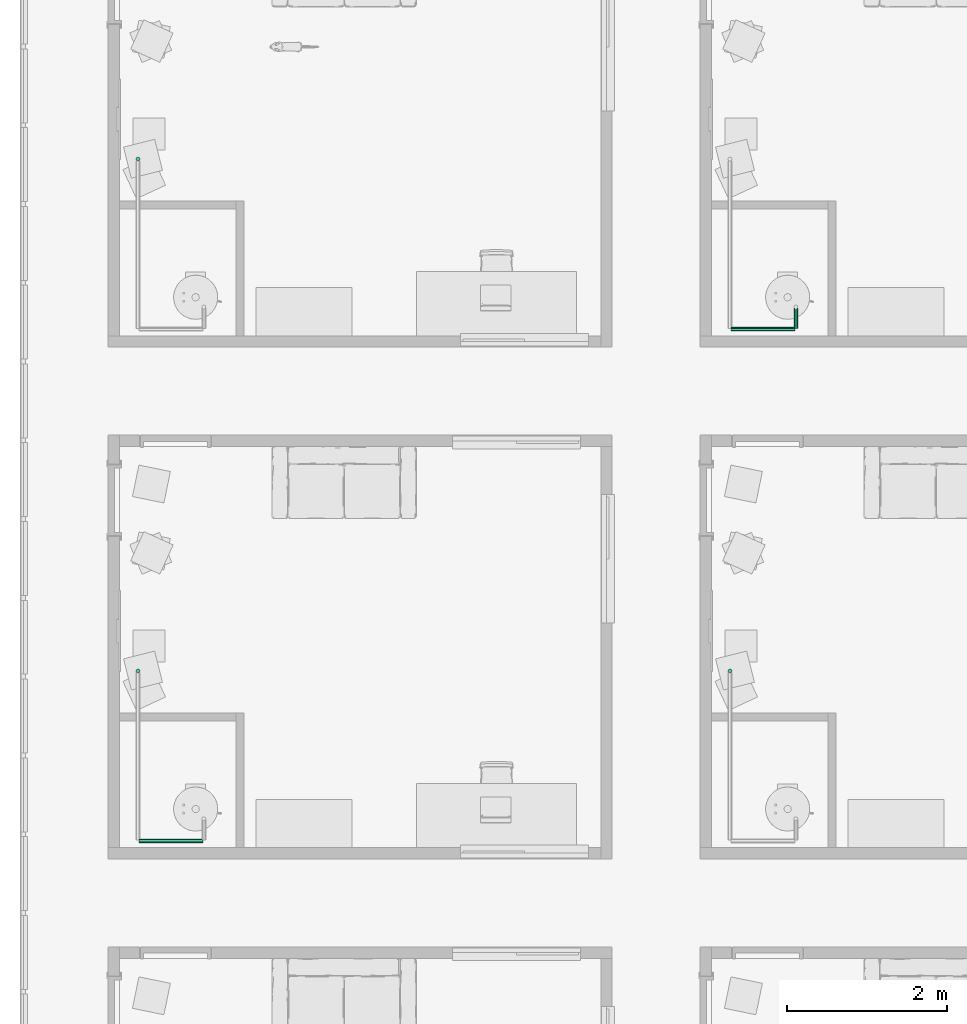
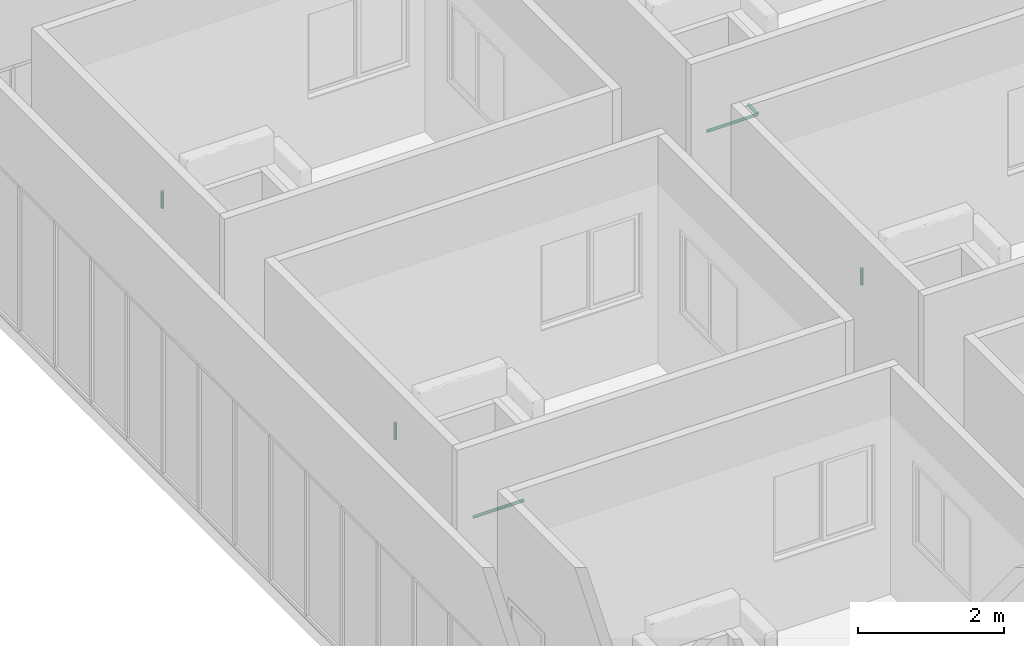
# One storey, part 46 of 71: 6 pipe segments.
"""IFC4 building model written with IfcOpenShell, lengths in centimetres."""

from ifc_helpers import new_model, entity, si_unit, converted_unit, derived_unit, direction, frame, origin, place, context, subcontext, project, spatial, arc, indexed_curve, outline, extrude, type_object, element, save


model = new_model("IFC4")

# Units and contexts
model_context = context("Model", 3, precision=0.001, world=origin(), true_north=direction((6.123233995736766e-17, 1.0)))
body_context = subcontext(model_context, "Body", "Model", "MODEL_VIEW")
ifc_project = project(units=[si_unit("LENGTHUNIT", "METRE", prefix="CENTI"), si_unit("AREAUNIT", "SQUARE_METRE"), si_unit("VOLUMEUNIT", "CUBIC_METRE"), derived_unit("THERMALTRANSMITTANCEUNIT", [(si_unit("MASSUNIT", "GRAM", prefix="KILO"), 1), (si_unit("THERMODYNAMICTEMPERATUREUNIT", "KELVIN"), -1), (si_unit("TIMEUNIT", "SECOND"), -3)]), converted_unit("PLANEANGLEUNIT", "DEGREE", entity("IfcPlaneAngleMeasure", 0.017453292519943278), si_unit("PLANEANGLEUNIT", "RADIAN"), dimensions=[0, 0, 0, 0, 0, 0, 0]), derived_unit("MASSDENSITYUNIT", [(si_unit("MASSUNIT", "GRAM", prefix="KILO"), 1), (si_unit("LENGTHUNIT", "METRE"), -3)]), derived_unit("VAPORPERMEABILITYUNIT", [(si_unit("LENGTHUNIT", "METRE"), -1), (si_unit("TIMEUNIT", "SECOND"), 1)]), derived_unit("USERDEFINED", [(si_unit("MASSUNIT", "GRAM", prefix="KILO"), 1), (si_unit("TIMEUNIT", "SECOND"), -3), (si_unit("LENGTHUNIT", "METRE"), 3), (si_unit("ELECTRICCURRENTUNIT", "AMPERE"), -2)]), derived_unit("SPECIFICHEATCAPACITYUNIT", [(si_unit("THERMODYNAMICTEMPERATUREUNIT", "KELVIN"), -1), (si_unit("LENGTHUNIT", "METRE"), 2), (si_unit("TIMEUNIT", "SECOND"), -2)]), derived_unit("THERMALCONDUCTANCEUNIT", [(si_unit("MASSUNIT", "GRAM", prefix="KILO"), 1), (si_unit("THERMODYNAMICTEMPERATUREUNIT", "KELVIN"), -1), (si_unit("TIMEUNIT", "SECOND"), -3), (si_unit("LENGTHUNIT", "METRE"), 1)]), si_unit("PRESSUREUNIT", "PASCAL"), derived_unit("MODULUSOFELASTICITYUNIT", [(si_unit("MASSUNIT", "GRAM", prefix="KILO"), 1), (si_unit("LENGTHUNIT", "METRE"), -1), (si_unit("TIMEUNIT", "SECOND"), -2)]), derived_unit("THERMALEXPANSIONCOEFFICIENTUNIT", [(si_unit("THERMODYNAMICTEMPERATUREUNIT", "KELVIN"), -1)])], contexts=[model_context])

# Site, building, storey
site_placement = place(None, origin())
site = spatial("IfcSite", under=ifc_project, at=site_placement, Name="Default", CompositionType="ELEMENT")
building_placement = place(site_placement, origin())
building = spatial("IfcBuilding", under=site, at=building_placement, Name="IDS Escape Game Building", CompositionType="ELEMENT")
storey_placement = place(building_placement, frame((0.0, 0.0, 400.0)))
storey = spatial("IfcBuildingStorey", under=building, at=storey_placement, Name="01_First Floor", CompositionType="ELEMENT", Elevation=399.99999999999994)

# Pipe segments
pipe_segment_type = type_object("IfcPipeSegmentType", Name="Pipe Types:Piping Aluminum", PredefinedType="NOTDEFINED")
pipe_segment_1_placement = place(storey_placement, origin())
element("IfcPipeSegment", 1, at=pipe_segment_1_placement, inside=storey, type_object=pipe_segment_type, Name="Pipe Types:Piping Aluminum", ObjectType="Pipe Types:Piping Aluminum", PredefinedType="NOTDEFINED", context=body_context, shape_type="SweptSolid", body=[
    extrude(outline(indexed_curve([(2.412999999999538, -2.165734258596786e-13), (1.7062486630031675, 1.7062486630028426), (4.331468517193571e-13, 2.4130000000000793), (-1.706248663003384, 1.7062486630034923), (-2.4130000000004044, -2.165734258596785e-13), (-1.7062486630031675, -1.7062486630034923), (4.3314685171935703e-13, -2.412999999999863), (1.7062486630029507, -1.7062486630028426)], segments=[arc(1, 2, 3), arc(3, 4, 5), arc(5, 6, 7), arc(7, 8, 1)], self_intersect=False)), frame((31.14671687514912, 1935.2648279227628, 242.0), z_axis=(1.0, 0.0, 0.0), x_axis=(0.0, 1.0, 0.0)), (0.0, 0.0, 1.0), 79.9032831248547),
])
pipe_segment_2_placement = place(storey_placement, origin())
element("IfcPipeSegment", 2, at=pipe_segment_2_placement, inside=storey, type_object=pipe_segment_type, Name="Pipe Types:Piping Aluminum", ObjectType="Pipe Types:Piping Aluminum", PredefinedType="NOTDEFINED", context=body_context, shape_type="SweptSolid", body=[
    extrude(outline(indexed_curve([(2.4130000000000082, -4.331468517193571e-13), (1.706248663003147, 1.7062486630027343), (-3.383959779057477e-15, 2.412999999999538), (-1.7062486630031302, 1.7062486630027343), (-2.412999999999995, -4.331468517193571e-13), (-1.7062486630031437, -1.7062486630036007), (-6.767919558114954e-15, -2.4130000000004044), (1.7062486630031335, -1.7062486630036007)], segments=[arc(1, 2, 3), arc(3, 4, 5), arc(5, 6, 7), arc(7, 8, 1)], self_intersect=False)), frame((30.046716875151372, 2147.26482792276, 244.09999999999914), z_axis=(0.0, 0.0, 1.0), x_axis=(-1.0, 0.0, 0.0)), (0.0, 0.0, 1.0), 27.900000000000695),
])
pipe_segment_3_placement = place(storey_placement, origin())
element("IfcPipeSegment", 3, at=pipe_segment_3_placement, inside=storey, type_object=pipe_segment_type, Name="Pipe Types:Piping Aluminum", ObjectType="Pipe Types:Piping Aluminum", PredefinedType="NOTDEFINED", context=body_context, shape_type="SweptSolid", body=[
    extrude(outline(indexed_curve([(2.412999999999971, 0.0), (1.7062486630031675, 1.7062486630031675), (0.0, 2.412999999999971), (-1.7062486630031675, 1.7062486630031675), (-2.412999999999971, 0.0), (-1.7062486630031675, -1.7062486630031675), (0.0, -2.412999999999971), (1.7062486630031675, -1.7062486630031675)], segments=[arc(1, 2, 3), arc(3, 4, 5), arc(5, 6, 7), arc(7, 8, 1)], self_intersect=False)), frame((768.0467168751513, 2147.2648279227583, 244.09999999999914), z_axis=(0.0, 0.0, 1.0), x_axis=(-1.0, 0.0, 0.0)), (0.0, 0.0, 1.0), 27.900000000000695),
])
pipe_segment_4_placement = place(storey_placement, origin())
element("IfcPipeSegment", 4, at=pipe_segment_4_placement, inside=storey, type_object=pipe_segment_type, Name="Pipe Types:Piping Aluminum", ObjectType="Pipe Types:Piping Aluminum", PredefinedType="NOTDEFINED", context=body_context, shape_type="SweptSolid", body=[
    extrude(outline(indexed_curve([(2.4130000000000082, 0.0), (1.706248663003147, 1.7062486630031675), (-3.383959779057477e-15, 2.412999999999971), (-1.7062486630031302, 1.7062486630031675), (-2.412999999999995, 0.0), (-1.7062486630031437, -1.7062486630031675), (-6.767919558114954e-15, -2.412999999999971), (1.7062486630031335, -1.7062486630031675)], segments=[arc(1, 2, 3), arc(3, 4, 5), arc(5, 6, 7), arc(7, 8, 1)], self_intersect=False)), frame((30.046716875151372, 2785.2648279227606, 244.09999999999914), z_axis=(0.0, 0.0, 1.0), x_axis=(-1.0, 0.0, 0.0)), (0.0, 0.0, 1.0), 27.900000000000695),
])
pipe_segment_5_placement = place(storey_placement, origin())
element("IfcPipeSegment", 5, at=pipe_segment_5_placement, inside=storey, type_object=pipe_segment_type, Name="Pipe Types:Piping Aluminum", ObjectType="Pipe Types:Piping Aluminum", PredefinedType="NOTDEFINED", context=body_context, shape_type="SweptSolid", body=[
    extrude(outline(indexed_curve([(2.412999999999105, -2.165734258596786e-13), (1.7062486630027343, 1.7062486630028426), (3.6842275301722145e-29, 2.4130000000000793), (-1.7062486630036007, 1.7062486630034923), (-2.4130000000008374, -2.165734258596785e-13), (-1.7062486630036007, -1.7062486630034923), (-3.6842275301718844e-29, -2.412999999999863), (1.706248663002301, -1.7062486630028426)], segments=[arc(1, 2, 3), arc(3, 4, 5), arc(5, 6, 7), arc(7, 8, 1)], self_intersect=False)), frame((769.1467168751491, 2573.264827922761, 242.0), z_axis=(1.0, 0.0, 0.0), x_axis=(0.0, 1.0, 0.0)), (0.0, 0.0, 1.0), 79.90328312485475),
])
pipe_segment_6_placement = place(storey_placement, origin())
element("IfcPipeSegment", 6, at=pipe_segment_6_placement, inside=storey, type_object=pipe_segment_type, Name="Pipe Types:Piping Aluminum", ObjectType="Pipe Types:Piping Aluminum", PredefinedType="NOTDEFINED", context=body_context, shape_type="SweptSolid", body=[
    extrude(outline(indexed_curve([(2.4129999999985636, 0.0), (1.7062486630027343, 1.706248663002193), (1.4077272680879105e-12, 2.412999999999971), (-1.7062486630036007, 1.706248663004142), (-2.4130000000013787, 0.0), (-1.7062486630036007, -1.706248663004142), (1.4077272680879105e-12, -2.412999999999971), (1.7062486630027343, -1.706248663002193)], segments=[arc(1, 2, 3), arc(3, 4, 5), arc(5, 6, 7), arc(7, 8, 1)], self_intersect=False)), frame((850.1500000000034, 2574.364827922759, 242.0), z_axis=(0.0, 1.0, 0.0), x_axis=(-1.0, 0.0, 0.0)), (0.0, 0.0, 1.0), 25.43517207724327),
])

save(model, "model.ifc")
